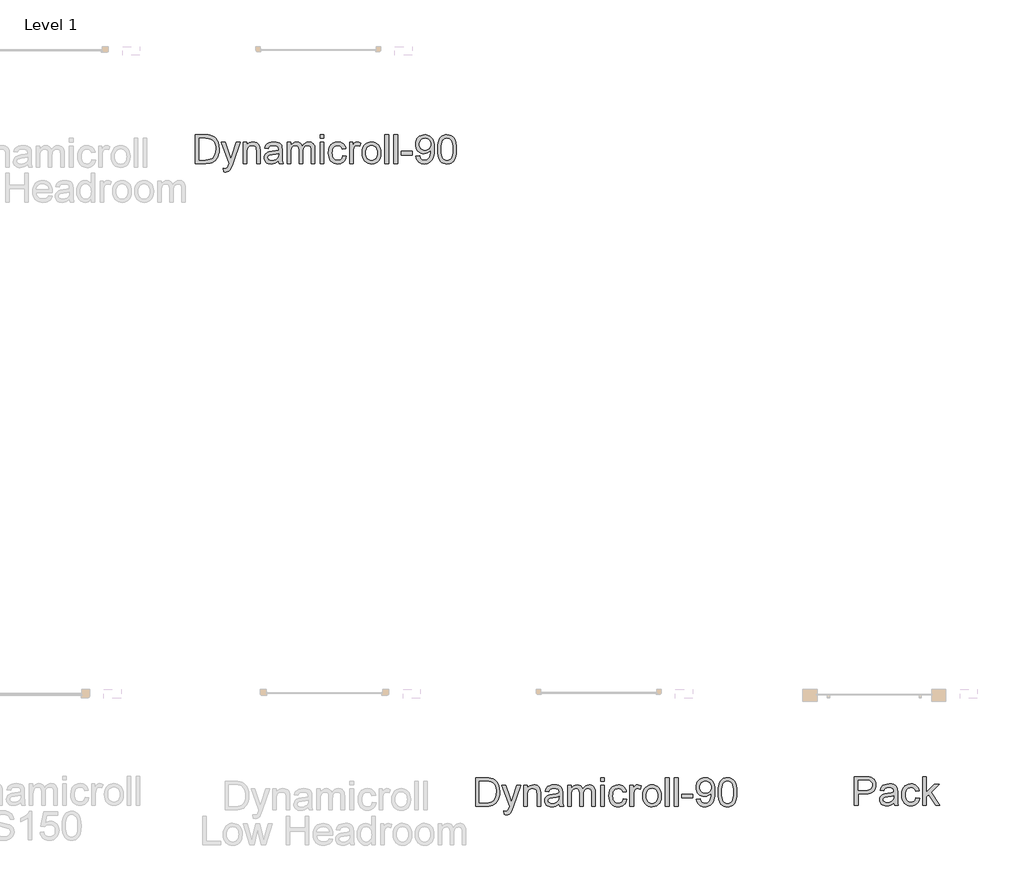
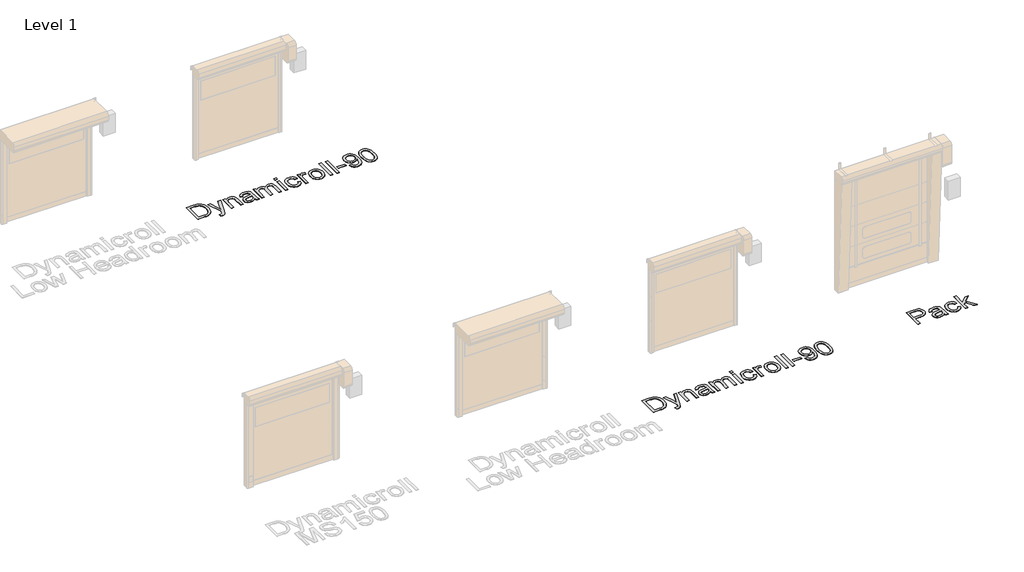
# One storey, part 11 of 18: 3 proxies.
"""IFC4 building model written with IfcOpenShell, lengths in millimetres."""

import ifcopenshell
import ifcopenshell.guid

model = None  # the IFC model being written
_history = None  # IfcOwnerHistory: only IFC2X3 demands one
_inside = {}  # id of a spatial element -> (the spatial element, [elements in it])
_under = {}  # id of a project, library or spatial element -> (it, [spatial elements below it])
_declared = {}  # id of a project -> (the project, [libraries it declares])
_typed = {}  # id of a type object -> (the type object, [elements of that type])
_made_of = {}  # id of a material, layer set ... -> (it, [elements and type objects made of it])


def new_model(schema):
    """Start an empty IFC model of exactly this schema.

    Asked for "IFC4X3", IfcOpenShell would pick the latest addendum, in which some entities
    have other attributes; the version numbers below select the first issue.
    IFC2X3 requires an IfcOwnerHistory on every rooted entity: one is made here for all.
    """
    global model, _history
    if schema == "IFC4X3":
        model = ifcopenshell.file(schema_version=(4, 3, 0, 0))
    else:
        model = ifcopenshell.file(schema=schema)
    _inside.clear()
    _under.clear()
    _declared.clear()
    _typed.clear()
    _made_of.clear()
    _history = None
    if model.schema == "IFC2X3":
        org = make("IfcOrganization", Name="unknown")
        user = make(
            "IfcPersonAndOrganization",
            ThePerson=make("IfcPerson", FamilyName="unknown"),
            TheOrganization=org,
        )
        app = make(
            "IfcApplication",
            ApplicationDeveloper=org,
            Version="unknown",
            ApplicationFullName="unknown",
            ApplicationIdentifier="unknown",
        )
        _history = make(
            "IfcOwnerHistory",
            OwningUser=user,
            OwningApplication=app,
            ChangeAction="ADDED",
            CreationDate=0,
        )
    return model


def make(cls, **values):
    """One entity of the class cls with the attributes given. An attribute that is None is left unset."""
    return model.create_entity(
        cls, **{name: value for name, value in values.items() if value is not None}
    )


def rooted(cls, **values):
    """An entity with a GlobalId (a new one), such as an element, a storey or a relation."""
    return make(cls, GlobalId=ifcopenshell.guid.new(), OwnerHistory=_history, **values)


def si_unit(unit_type, name, prefix=None):
    """IfcSIUnit, for example si_unit("LENGTHUNIT", "METRE", prefix="MILLI")."""
    return make("IfcSIUnit", UnitType=unit_type, Prefix=prefix, Name=name)


def assignment(units):
    """IfcUnitAssignment: the units of a project."""
    return None if units is None else make("IfcUnitAssignment", Units=units)


def point(xyz):
    """IfcCartesianPoint."""
    return None if xyz is None else make("IfcCartesianPoint", Coordinates=xyz)


def direction(xyz):
    """IfcDirection."""
    return None if xyz is None else make("IfcDirection", DirectionRatios=xyz)


def frame(location, z_axis=None, x_axis=None):
    """IfcAxis2Placement3D, a coordinate frame: its origin and axes. An axis left out is left unset."""
    return make(
        "IfcAxis2Placement3D",
        Location=point(location),
        Axis=direction(z_axis),
        RefDirection=direction(x_axis),
    )


def origin():
    """The frame at (0, 0, 0) with its axes left unset."""
    return frame((0.0, 0.0, 0.0))


def origin_with_axes():
    """The frame at (0, 0, 0) with the z axis (0, 0, 1) and the x axis (1, 0, 0) written out."""
    return frame((0.0, 0.0, 0.0), z_axis=(0.0, 0.0, 1.0), x_axis=(1.0, 0.0, 0.0))


def place(relative_to, where):
    """IfcLocalPlacement: puts the frame where relative to a parent placement (None: the world)."""
    return make(
        "IfcLocalPlacement", PlacementRelTo=relative_to, RelativePlacement=where
    )


def context(
    kind, dimensions, precision=None, world=None, true_north=None, identifier=None
):
    """IfcGeometricRepresentationContext, for example the 3D "Model" context."""
    return make(
        "IfcGeometricRepresentationContext",
        ContextIdentifier=identifier,
        ContextType=kind,
        CoordinateSpaceDimension=dimensions,
        Precision=precision,
        WorldCoordinateSystem=world,
        TrueNorth=true_north,
    )


def project(units=None, contexts=None):
    """IfcProject with its units and contexts."""
    return rooted(
        "IfcProject",
        Name="project",
        RepresentationContexts=contexts,
        UnitsInContext=assignment(units),
    )


def spatial(cls, under=None, at=None, **own):
    """A site, building, storey or space (cls), placed at a placement, below another one or the project."""
    s = rooted(cls, ObjectPlacement=at, **own)
    if under is not None:
        _under.setdefault(under.id(), (under, []))[1].append(s)
    return s


def polyline(points):
    """IfcPolyline through the points."""
    return make("IfcPolyline", Points=[point(p) for p in points])


def outline(outer, holes=None, kind="AREA"):
    """IfcArbitraryClosedProfileDef: a profile drawn as a closed curve; with holes, ...WithVoids."""
    if holes is None:
        return make("IfcArbitraryClosedProfileDef", ProfileType=kind, OuterCurve=outer)
    return make(
        "IfcArbitraryProfileDefWithVoids",
        ProfileType=kind,
        OuterCurve=outer,
        InnerCurves=holes,
    )


def extrude(swept, where, along, depth):
    """IfcExtrudedAreaSolid: the profile swept, set in the frame where, extruded along a direction by depth."""
    return make(
        "IfcExtrudedAreaSolid",
        SweptArea=swept,
        Position=where,
        ExtrudedDirection=direction(along),
        Depth=depth,
    )


def shape(context_of_items, identifier, shape_type, items):
    """IfcShapeRepresentation: the items that make up one representation, for example the "Body"."""
    return make(
        "IfcShapeRepresentation",
        ContextOfItems=context_of_items,
        RepresentationIdentifier=identifier,
        RepresentationType=shape_type,
        Items=items,
    )


def made_of(thing, what):
    """Note that an element or type object is made of a material, layer set ...; save() writes the relation."""
    if what is not None:
        _made_of.setdefault(what.id(), (what, []))[1].append(thing)
    return thing


def element(
    cls,
    number,
    at=None,
    inside=None,
    cuts=None,
    type_object=None,
    material=None,
    context=None,
    identifier="Body",
    shape_type=None,
    held_by="IfcProductDefinitionShape",
    body=None,
    shapes=None,
    **own,
):
    """One element of the class cls, such as IfcWall. Its Tag is "e" and its number.

    at: its placement. inside: the storey or other place that contains it. cuts: it is an
    opening in that element (IfcRelVoidsElement). A single representation is given by context,
    identifier, shape_type and body (its items); several are given by shapes. held_by: the class
    of the entity that holds the representations. save() writes the other relations.
    """
    e = rooted(cls, Tag="e%d" % number, ObjectPlacement=at, **own)
    if body is not None:
        shapes = [shape(context, identifier, shape_type, body)]
    if shapes is not None:
        e.Representation = make(held_by, Representations=shapes)
    if inside is not None:
        _inside.setdefault(inside.id(), (inside, []))[1].append(e)
    if cuts is not None:
        rooted(
            "IfcRelVoidsElement", RelatingBuildingElement=cuts, RelatedOpeningElement=e
        )
    if type_object is not None:
        _typed.setdefault(type_object.id(), (type_object, []))[1].append(e)
    return made_of(e, material)


def aggregate(whole, parts):
    """IfcRelAggregates: a whole, such as a stair, and the parts it consists of."""
    return rooted("IfcRelAggregates", RelatingObject=whole, RelatedObjects=parts)


def save(model, path):
    """Write the relations noted so far, then the file.

    IfcRelAggregates (storeys below a building ...), IfcRelContainedInSpatialStructure (elements
    in a storey), IfcRelDefinesByType, IfcRelAssociatesMaterial and IfcRelDeclares: one each for
    every whole, place, type object, material and project.
    """
    for whole, parts in _under.values():
        aggregate(whole, parts)
    for where, things in _inside.values():
        rooted(
            "IfcRelContainedInSpatialStructure",
            RelatedElements=things,
            RelatingStructure=where,
        )
    for kind, things in _typed.values():
        rooted("IfcRelDefinesByType", RelatedObjects=things, RelatingType=kind)
    for what, things in _made_of.values():
        rooted("IfcRelAssociatesMaterial", RelatedObjects=things, RelatingMaterial=what)
    for by, libraries in _declared.values():
        rooted("IfcRelDeclares", RelatingContext=by, RelatedDefinitions=libraries)
    model.write(path)


model = new_model("IFC4")

# Units and contexts
model_context = context("Model", 3, world=origin())
ifc_project = project(units=[si_unit("LENGTHUNIT", "METRE", prefix="MILLI")], contexts=[model_context])

# Site, building, storey
site = spatial("IfcSite", under=ifc_project)
building = spatial("IfcBuilding", under=site)
storey = spatial("IfcBuildingStorey", under=building, Name="Level 1", Elevation=0.0)

# Proxies
placement = place(None, origin())
element("IfcBuildingElementProxy", 1, Name="500mm", ObjectType="500mm", at=placement, inside=storey, context=model_context, shape_type="SweptSolid", body=[
    extrude(outline(polyline([(14635.3862268, 30417.6094957), (14635.3862268, 30919.8910465), (14808.6586466, 30919.8910465), (14860.4380374, 30918.0822933), (14898.299226, 30912.6560339), (14938.3370499, 30898.7071749), (14972.1208797, 30876.7262257), (14990.7372415, 30858.7613216), (15006.8550715, 30838.4664982), (15020.4743695, 30815.8417555), (15031.5951356, 30790.8870935), (15046.4023859, 30734.9077166), (15051.338136, 30671.4480724), (15047.9965413, 30617.5380317), (15037.9717569, 30570.0965827), (15022.7046541, 30529.7062053), (15003.636104, 30496.9493794), (14981.6858116, 30471.0903408), (14957.7734819, 30451.3933256), (14930.320288, 30436.7853447), (14897.7474031, 30426.193409), (14859.9935133, 30419.755474), (14816.9973051, 30417.6094957), (14635.3862268, 30417.6094957)]), holes=[polyline([(14698.1714207, 30480.3946896), (14809.2717832, 30480.3946896), (14855.2263758, 30482.6632952), (14890.0831948, 30489.4691121), (14916.3867575, 30500.4136015), (14936.6815809, 30515.0982245), (14958.4939175, 30542.2755068), (14974.8799947, 30577.4542226), (14985.1347053, 30620.787656), (14988.5529422, 30672.4290911), (14986.8783127, 30708.8800654), (14981.8544242, 30740.8551422), (14973.4812767, 30768.3543213), (14961.7588702, 30791.3776028), (14947.6375665, 30810.4461529), (14932.0677275, 30826.0811377), (14915.0493531, 30838.2825572), (14896.5824434, 30847.0504114), (14860.4686942, 30854.5919923), (14807.5550006, 30857.1058526), (14698.1714207, 30857.1058526), (14698.1714207, 30480.3946896)])]), origin_with_axes(), (0.0, 0.0, 1.0), 5.0),
    extrude(outline(polyline([(15129.8196283, 30276.3428096), (15121.9714791, 30336.7980841), (15153.8545854, 30331.2798542), (15170.623873, 30333.0119653), (15183.653027, 30338.2082984), (15193.8004387, 30346.5009717), (15201.9244994, 30357.5221032), (15219.0923258, 30403.7526072), (15223.9974191, 30418.9583964), (15090.5788822, 30786.4725096), (15156.7976413, 30786.4725096), (15227.5536117, 30581.6848656), (15252.2017054, 30499.769808), (15276.8497991, 30572.1199337), (15349.5678068, 30786.4725096), (15415.2960566, 30786.4725096), (15286.9052403, 30408.7803278), (15253.5506061, 30326.8652703), (15236.4747501, 30300.7149918), (15217.1302885, 30282.5968035), (15194.65883, 30272.0201961), (15168.2019832, 30268.4946604), (15150.0224812, 30270.4566977), (15129.8196283, 30276.3428096)])), origin_with_axes(), (0.0, 0.0, 1.0), 5.0),
    extrude(outline(polyline([(15467.2900453, 30417.6094957), (15467.2900453, 30786.4725096), (15530.0752391, 30786.4725096), (15530.0752391, 30734.9690302), (15551.8875757, 30760.9353677), (15578.0838395, 30779.4827517), (15608.6640303, 30790.611182), (15643.6281483, 30794.3206588), (15674.5762211, 30791.3316176), (15702.9184632, 30782.3644939), (15726.5548814, 30768.5382623), (15743.3854826, 30750.971897), (15754.8051529, 30729.7113834), (15762.2087781, 30704.8027066), (15765.519716, 30644.1021774), (15765.519716, 30417.6094957), (15702.7345222, 30417.6094957), (15702.7345222, 30635.6408915), (15700.925769, 30668.1064776), (15695.4995096, 30691.1910728), (15685.4900536, 30707.7304342), (15669.9317109, 30720.5603188), (15649.9894411, 30728.7916784), (15626.8282038, 30731.5354649), (15607.7634859, 30729.9949591), (15590.0553327, 30725.3734415), (15573.7037445, 30717.6709123), (15558.7087211, 30706.8873713), (15546.1815727, 30691.7965453), (15537.2336096, 30671.1721609), (15531.8648317, 30645.0142182), (15530.0752391, 30613.3227172), (15530.0752391, 30417.6094957), (15467.2900453, 30417.6094957)])), origin_with_axes(), (0.0, 0.0, 1.0), 5.0),
    extrude(outline(polyline([(16087.2938345, 30464.6983911), (16057.2961234, 30438.9773083), (16026.4093643, 30422.146707), (15993.9284498, 30412.8576866), (15959.1482728, 30409.7613465), (15931.1930733, 30411.6237491), (15906.6791032, 30417.2109569), (15885.6063627, 30426.5229699), (15867.9748517, 30439.5597881), (15854.0528174, 30455.493677), (15844.1085072, 30473.4969022), (15838.1419211, 30493.5694635), (15836.1530591, 30515.7113611), (15839.1574287, 30541.7390123), (15848.1705376, 30565.3754305), (15862.0734113, 30585.6089402), (15879.7470755, 30601.427866), (15900.5170798, 30613.3840308), (15923.7089739, 30622.0292577), (15978.0328819, 30631.4715623), (16042.2282901, 30641.4043761), (16086.9259525, 30653.0539726), (16087.2938345, 30667.0334885), (16082.971221, 30695.0538338), (16070.0033807, 30713.3866199), (16056.9282414, 30721.3267396), (16041.0020167, 30726.9982537), (16000.5963109, 30731.5354649), (15963.1949748, 30728.5157669), (15937.0753531, 30719.4566728), (15919.2637332, 30702.7027136), (15906.7864022, 30676.5984203), (15844.0012083, 30684.4465696), (15854.8997124, 30718.7822224), (15871.1631623, 30745.7602354), (15894.3090712, 30766.392284), (15925.8549522, 30781.6900436), (15964.4365765, 30791.163005), (16008.6897148, 30794.3206588), (16051.1341, 30791.530887), (16084.7799742, 30783.1615716), (16110.1485034, 30770.5769417), (16127.7608539, 30755.1412263), (16139.4411073, 30736.0573478), (16147.013345, 30712.5282285), (16150.0790283, 30657.5911839), (16150.0790283, 30579.4775736), (16153.2673389, 30470.400562), (16157.9884912, 30443.4378775), (16165.7753268, 30417.6094957), (16102.9901329, 30417.6094957), (16092.9346917, 30439.4371608), (16087.2938345, 30464.6983911)]), holes=[polyline([(16087.2938345, 30590.2687788), (16045.1100323, 30579.8147988), (15986.0036585, 30571.0162877), (15931.9863188, 30560.8382192), (15917.9301609, 30553.8791181), (15907.5221662, 30544.2835294), (15901.0842312, 30532.7872171), (15898.9382529, 30520.1259451), (15903.61342, 30501.4559338), (15917.638921, 30486.1581742), (15940.7081878, 30475.9494488), (15972.514652, 30472.5465403), (16006.2371682, 30476.3020024), (16036.0356098, 30487.5683885), (16060.1931941, 30504.1690635), (16076.9931386, 30523.9273923), (16084.442749, 30544.2835294), (16086.9259525, 30572.4878157), (16087.2938345, 30590.2687788)])]), origin_with_axes(), (0.0, 0.0, 1.0), 5.0),
    extrude(outline(polyline([(16236.4086698, 30417.6094957), (16236.4086698, 30786.4725096), (16299.1938637, 30786.4725096), (16299.1938637, 30725.7719804), (16318.0784728, 30753.6543699), (16342.3586844, 30775.4973634), (16371.2067642, 30789.6148349), (16403.7949776, 30794.3206588), (16438.7131104, 30789.5228644), (16466.7027988, 30775.1294814), (16487.6107589, 30752.0908714), (16501.2837064, 30721.3573964), (16524.1690321, 30753.2788237), (16550.2733254, 30776.0798432), (16579.5965861, 30789.7604549), (16612.1388142, 30794.3206588), (16637.2735851, 30792.4237673), (16659.3350085, 30786.7330926), (16678.3230844, 30777.248635), (16694.2378128, 30763.9703942), (16706.8186107, 30746.7450862), (16715.8048948, 30725.4194268), (16721.1966653, 30699.993416), (16722.9939221, 30670.4670537), (16722.9939221, 30417.6094957), (16660.2087283, 30417.6094957), (16660.2087283, 30643.4890408), (16658.7525287, 30674.8049956), (16654.38393, 30695.9122251), (16646.1985556, 30710.3669218), (16633.292029, 30721.7252784), (16616.6913539, 30729.0829183), (16597.4235344, 30731.5354649), (16579.631075, 30729.9643023), (16563.4097783, 30725.2508142), (16548.7596443, 30717.3950008), (16535.6806729, 30706.3968619), (16524.9239567, 30691.934501), (16517.2405879, 30673.6860212), (16512.6305667, 30651.6514225), (16511.0938929, 30625.830705), (16511.0938929, 30417.6094957), (16448.3086991, 30417.6094957), (16448.3086991, 30650.4787987), (16444.6758644, 30685.9794112), (16433.7773603, 30711.3019552), (16425.3505633, 30720.1541157), (16414.6015113, 30726.4770875), (16386.1366419, 30731.5354649), (16361.9484007, 30728.1632133), (16339.6608832, 30718.0464585), (16321.2667834, 30701.430455), (16308.7587956, 30678.5604576), (16301.5850967, 30646.8306356), (16299.1938637, 30603.635158), (16299.1938637, 30417.6094957), (16236.4086698, 30417.6094957)])), origin_with_axes(), (0.0, 0.0, 1.0), 5.0),
    extrude(outline(polyline([(16817.1717129, 30857.1058526), (16817.1717129, 30919.8910465), (16879.9569067, 30919.8910465), (16879.9569067, 30857.1058526), (16817.1717129, 30857.1058526)])), origin_with_axes(), (0.0, 0.0, 1.0), 5.0),
    extrude(outline(polyline([(16817.1717129, 30417.6094957), (16817.1717129, 30786.4725096), (16879.9569067, 30786.4725096), (16879.9569067, 30417.6094957), (16817.1717129, 30417.6094957)])), origin_with_axes(), (0.0, 0.0, 1.0), 5.0),
    extrude(outline(polyline([(17209.5791744, 30551.0280326), (17272.3643683, 30543.1798834), (17265.5355587, 30513.5538865), (17254.8593167, 30487.3384622), (17240.3356421, 30464.5336106), (17221.9645349, 30445.1393317), (17200.5200803, 30429.6614632), (17176.7763632, 30418.6058428), (17150.7333836, 30411.9724706), (17122.3911416, 30409.7613465), (17087.1779368, 30412.8461903), (17055.605231, 30422.1007218), (17027.6730241, 30437.5249408), (17003.3813161, 30459.1188475), (16983.7187899, 30486.4762388), (16969.6741283, 30519.1909116), (16961.2473314, 30557.262866), (16958.438399, 30600.692102), (16963.2361934, 30656.56418), (16977.6295765, 30704.9866476), (16988.4820953, 30725.9367608), (17001.8484745, 30744.089438), (17017.7287139, 30759.4446792), (17036.1228137, 30772.0024844), (17077.1263277, 30788.7411152), (17121.5327502, 30794.3206588), (17149.3883151, 30792.4046067), (17174.5843996, 30786.6564506), (17197.1210039, 30777.0761903), (17216.998128, 30763.6638259), (17233.8785466, 30746.7259257), (17247.4250347, 30726.569058), (17257.6375921, 30703.1932229), (17264.516219, 30676.5984203), (17201.7310252, 30668.7502711), (17190.3420117, 30696.1421513), (17172.6070339, 30715.7778528), (17149.5071103, 30727.5960619), (17122.0232596, 30731.5354649), (17100.6899359, 30729.5964203), (17081.4489412, 30723.7792862), (17064.3002753, 30714.0840628), (17049.2439382, 30700.51075), (17036.9850371, 30682.7451153), (17028.2286792, 30660.4729262), (17022.9748645, 30633.6941826), (17021.2235929, 30602.4088846), (17022.9365434, 30570.6522378), (17028.075395, 30543.5630938), (17036.6401477, 30521.1414526), (17048.6308015, 30503.3873143), (17063.3882345, 30489.8944757), (17080.2533247, 30480.2567338), (17099.2260722, 30474.4740887), (17120.3064769, 30472.5465403), (17152.8180482, 30477.3596631), (17179.4741645, 30491.7990314), (17190.2538734, 30502.7205282), (17198.8646113, 30516.2325273), (17209.5791744, 30551.0280326)])), origin_with_axes(), (0.0, 0.0, 1.0), 5.0),
    extrude(outline(polyline([(17327.3014129, 30417.6094957), (17327.3014129, 30786.4725096), (17382.2384575, 30786.4725096), (17382.2384575, 30731.9033469), (17402.5332809, 30763.5411985), (17421.233949, 30782.180553), (17439.9959307, 30791.2856323), (17460.4746951, 30794.3206588), (17491.7446647, 30789.4768792), (17523.5051436, 30774.9455404), (17502.5358699, 30718.6595951), (17480.4629502, 30728.3164975), (17458.3900305, 30731.5354649), (17439.6433771, 30728.4391248), (17422.8894179, 30719.1501044), (17409.3544262, 30704.373511), (17400.2646752, 30684.8144516), (17392.6311238, 30649.7430347), (17390.0866067, 30611.4833072), (17390.0866067, 30417.6094957), (17327.3014129, 30417.6094957)])), origin_with_axes(), (0.0, 0.0, 1.0), 5.0),
    extrude(outline(polyline([(17547.0495913, 30602.0410026), (17550.4448356, 30649.8120126), (17560.6305683, 30690.976475), (17577.6067895, 30725.5343899), (17601.3734993, 30753.4857573), (17625.3011574, 30771.3510267), (17651.7120189, 30784.1119334), (17680.606084, 30791.7684775), (17711.9833525, 30794.3206588), (17746.6217416, 30791.2128224), (17777.9415285, 30781.889313), (17805.9427133, 30766.3501308), (17830.6252959, 30744.5952758), (17850.7706673, 30717.3605118), (17865.1602182, 30685.381603), (17873.7939488, 30648.6585492), (17876.671859, 30607.1913506), (17871.5828247, 30543.7623632), (17865.2215319, 30517.7270479), (17856.3157219, 30495.4778514), (17844.9765259, 30476.2598492), (17831.3150747, 30459.3181169), (17815.3313684, 30444.6526545), (17797.025407, 30432.2634619), (17756.2978045, 30415.3868753), (17711.9833525, 30409.7613465), (17676.8391256, 30412.8576866), (17645.2280988, 30422.146707), (17617.1502719, 30437.6284076), (17592.6056451, 30459.3027885), (17572.6748715, 30486.8019677), (17558.4386048, 30519.7580631), (17549.8968447, 30558.1710747), (17547.0495913, 30602.0410026)]), holes=[polyline([(17609.8347852, 30602.16363), (17611.6512025, 30571.7098986), (17617.1004546, 30545.3411901), (17626.1825413, 30523.0575047), (17638.8974628, 30504.8588423), (17654.363835, 30490.7222102), (17671.700274, 30480.6246158), (17690.9067799, 30474.5660592), (17711.9833525, 30472.5465403), (17732.9526262, 30474.5775555), (17752.08249, 30480.6706011), (17769.3729437, 30490.825677), (17784.8239875, 30505.0427833), (17797.538909, 30523.4215546), (17806.6209958, 30546.0616257), (17812.0702478, 30572.9629966), (17813.8866652, 30604.1256673), (17812.0587515, 30633.6137085), (17806.5750105, 30659.2926381), (17797.4354422, 30681.1624563), (17784.6400465, 30699.223163), (17769.1315212, 30713.3597951), (17751.8525637, 30723.4573895), (17732.8031742, 30729.5159461), (17711.9833525, 30731.5354649), (17690.9067799, 30729.5236103), (17671.700274, 30723.4880463), (17654.363835, 30713.428773), (17638.8974628, 30699.3457904), (17626.1825413, 30681.2007774), (17617.1004546, 30658.955413), (17611.6512025, 30632.6096972), (17609.8347852, 30602.16363)])]), origin_with_axes(), (0.0, 0.0, 1.0), 5.0),
    extrude(outline(polyline([(17947.3052021, 30417.6094957), (17947.3052021, 30919.8910465), (18010.0903959, 30919.8910465), (18010.0903959, 30417.6094957), (17947.3052021, 30417.6094957)])), origin_with_axes(), (0.0, 0.0, 1.0), 5.0),
    extrude(outline(polyline([(18104.2681867, 30417.6094957), (18104.2681867, 30919.8910465), (18167.0533805, 30919.8910465), (18167.0533805, 30417.6094957), (18104.2681867, 30417.6094957)])), origin_with_axes(), (0.0, 0.0, 1.0), 5.0),
    extrude(outline(polyline([(18229.8385744, 30566.7243311), (18229.8385744, 30629.509525), (18426.0423051, 30629.509525), (18426.0423051, 30566.7243311), (18229.8385744, 30566.7243311)])), origin_with_axes(), (0.0, 0.0, 1.0), 5.0),
    extrude(outline(polyline([(18488.827499, 30543.1798834), (18551.6126928, 30551.0280326), (18562.3425843, 30515.3894644), (18579.8169791, 30491.1245811), (18603.6066815, 30477.1910505), (18633.2824957, 30472.5465403), (18659.9079551, 30475.5355816), (18684.1115247, 30484.5027052), (18704.2224072, 30498.4668926), (18718.569805, 30516.4471251), (18729.4376522, 30540.0835433), (18739.109883, 30571.0162877), (18745.9156999, 30606.5169003), (18748.1843056, 30643.8569228), (18747.8164236, 30656.1196559), (18726.0654006, 30629.5708386), (18697.6005312, 30608.5402512), (18664.4758233, 30594.8366469), (18628.7452845, 30590.2687788), (18598.9200181, 30593.0585506), (18571.493649, 30601.427866), (18546.466177, 30615.376725), (18523.8376022, 30634.9051275), (18505.0871167, 30658.993734), (18491.6939129, 30686.6232047), (18483.6579905, 30717.7935396), (18480.9793497, 30752.5047387), (18483.7882821, 30788.3732332), (18492.215079, 30820.5629078), (18506.2597406, 30849.0737624), (18525.9222668, 30873.9057971), (18549.815436, 30894.0243437), (18576.5520264, 30908.3947341), (18606.1320381, 30917.0169684), (18638.555471, 30919.8910465), (18662.4946254, 30918.2509059), (18685.3837833, 30913.3304842), (18707.2229447, 30905.1297814), (18728.0121095, 30893.6487975), (18747.057667, 30879.1327871), (18763.6660062, 30861.8270049), (18777.8371272, 30841.7314509), (18789.57103, 30818.8461251), (18798.771912, 30791.8527837), (18805.3439706, 30759.4331829), (18810.6016174, 30678.315203), (18805.359299, 30592.3074582), (18798.806401, 30556.6267368), (18789.6323437, 30525.828116), (18777.8716162, 30499.1605034), (18763.5587073, 30475.8728067), (18746.6936171, 30455.9650258), (18727.2763455, 30439.4371608), (18705.6977672, 30426.453992), (18682.3487569, 30417.1803001), (18657.2293144, 30411.6160849), (18630.3394398, 30409.7613465), (18602.1428177, 30411.949478), (18576.6593253, 30418.5138723), (18553.8889627, 30429.4545296), (18533.8317297, 30444.7714497), (18516.9934642, 30464.0507655), (18503.8800039, 30486.8786097), (18494.4913489, 30513.2549824), (18488.827499, 30543.1798834)]), holes=[polyline([(18747.8164236, 30753.9762667), (18746.1226336, 30776.478382), (18741.0412635, 30796.5279508), (18732.5723134, 30814.1249729), (18720.7157833, 30829.2694483), (18706.0541529, 30841.4478752), (18689.1699022, 30850.1467516), (18670.0630311, 30855.3660774), (18648.7335395, 30857.1058526), (18626.7219335, 30855.2319537), (18606.7949921, 30849.610257), (18588.9527153, 30840.2407624), (18573.1951032, 30827.12347), (18560.3192334, 30811.0248006), (18551.1221835, 30792.7111751), (18545.6039536, 30772.1825933), (18543.7645436, 30749.4390554), (18545.5043189, 30729.0407652), (18550.7236447, 30710.6428333), (18559.422521, 30694.2452598), (18571.6009479, 30679.8480446), (18586.7530876, 30668.1256381), (18604.3731023, 30659.7524906), (18624.4609921, 30654.7286021), (18647.0167569, 30653.0539726), (18668.0511764, 30654.7286021), (18687.1312228, 30659.7524906), (18704.2568961, 30668.1256381), (18719.4281963, 30679.8480446), (18731.8480457, 30694.5288355), (18740.7193668, 30711.7771361), (18746.0421594, 30731.5929465), (18747.8164236, 30753.9762667)])]), origin_with_axes(), (0.0, 0.0, 1.0), 5.0),
    extrude(outline(polyline([(18865.538662, 30664.7035692), (18870.1525154, 30745.1011135), (18883.9940755, 30809.2198796), (18894.3407566, 30835.4199754), (18906.9253865, 30858.040886), (18921.7479652, 30877.0826114), (18938.8084927, 30892.5451515), (18958.1644506, 30904.5089806), (18979.8733205, 30913.0545727), (19003.9351022, 30918.181928), (19030.3497959, 30919.8910465), (19069.038719, 30915.8443445), (19103.6809402, 30903.7042387), (19132.6516474, 30883.9459099), (19154.3260282, 30857.044539), (19170.696777, 30823.2300522), (19183.7565879, 30782.7323759), (19192.3098443, 30731.3055387), (19195.1609297, 30664.7035692), (19190.5930616, 30584.7658773), (19176.8894573, 30520.8003954), (19166.6232504, 30494.5888032), (19154.096102, 30471.9334037), (19139.3080122, 30452.8341968), (19122.258981, 30437.2911825), (19102.8800305, 30425.2468792), (19081.1021828, 30416.6438055), (19056.9254379, 30411.4819612), (19030.3497959, 30409.7613465), (18995.7688883, 30412.7503877), (18965.1120554, 30421.7175113), (18938.3792971, 30436.6627174), (18915.5706134, 30457.5860059), (18893.6816347, 30495.4088735), (18878.0466499, 30542.5360899), (18868.665659, 30598.9676551), (18865.538662, 30664.7035692)]), holes=[polyline([(18928.3238559, 30664.8261965), (18930.1632659, 30610.2455376), (18935.6814958, 30566.0652092), (18944.8785457, 30532.2852114), (18957.7544155, 30508.9055442), (18973.3280866, 30492.99848), (18990.6185404, 30481.6362913), (19009.6257768, 30474.8189781), (19030.3497959, 30472.5465403), (19051.0738149, 30474.8266423), (19070.0810514, 30481.6669481), (19087.3715051, 30493.0674579), (19102.9451763, 30509.0281715), (19115.8210461, 30532.4461598), (19125.018096, 30566.2184934), (19130.5363259, 30610.3451723), (19132.3757359, 30664.8261965), (19130.5976396, 30717.9621522), (19125.2633506, 30761.3645634), (19116.3728691, 30795.0334302), (19103.9261949, 30818.9687525), (19088.6131069, 30835.6537338), (19071.1233837, 30847.5715776), (19051.4570253, 30854.7222839), (19029.6140319, 30857.1058526), (19008.9973117, 30855.0058596), (18990.3119721, 30848.7058804), (18973.5580129, 30838.2059151), (18958.7354341, 30823.5059637), (18945.4303687, 30797.4476558), (18935.9267504, 30762.3149252), (18930.2245795, 30718.1077721), (18928.3238559, 30664.8261965)])]), origin_with_axes(), (0.0, 0.0, 1.0), 5.0),
])
element("IfcBuildingElementProxy", 2, Name="500mm", ObjectType="500mm", at=placement, inside=storey, context=model_context, shape_type="SweptSolid", body=[
    extrude(outline(polyline([(19535.3862268, 19179.9547363), (19535.3862268, 19682.236287), (19708.6586466, 19682.236287), (19760.4380374, 19680.4275339), (19798.299226, 19675.0012744), (19838.3370499, 19661.0524154), (19872.1208797, 19639.0714662), (19890.7372415, 19621.1065621), (19906.8550715, 19600.8117387), (19920.4743695, 19578.186996), (19931.5951356, 19553.232334), (19946.4023859, 19497.2529571), (19951.338136, 19433.7933129), (19947.9965413, 19379.8832722), (19937.9717569, 19332.4418233), (19922.7046541, 19292.0514459), (19903.636104, 19259.2946199), (19881.6858116, 19233.4355813), (19857.7734819, 19213.7385661), (19830.320288, 19199.1305853), (19797.7474031, 19188.5386495), (19759.9935133, 19182.1007146), (19716.9973051, 19179.9547363), (19535.3862268, 19179.9547363)]), holes=[polyline([(19598.1714207, 19242.7399301), (19709.2717832, 19242.7399301), (19755.2263758, 19245.0085357), (19790.0831948, 19251.8143526), (19816.3867575, 19262.758842), (19836.6815809, 19277.443465), (19858.4939175, 19304.6207474), (19874.8799947, 19339.7994632), (19885.1347053, 19383.1328965), (19888.5529422, 19434.7743316), (19886.8783127, 19471.2253059), (19881.8544242, 19503.2003827), (19873.4812767, 19530.6995618), (19861.7588702, 19553.7228434), (19847.6375665, 19572.7913934), (19832.0677275, 19588.4263782), (19815.0493531, 19600.6277977), (19796.5824434, 19609.395652), (19760.4686942, 19616.9372329), (19707.5550006, 19619.4510932), (19598.1714207, 19619.4510932), (19598.1714207, 19242.7399301)])]), origin_with_axes(), (0.0, 0.0, 1.0), 5.0),
    extrude(outline(polyline([(20029.8196283, 19038.6880501), (20021.9714791, 19099.1433246), (20053.8545854, 19093.6250947), (20070.623873, 19095.3572058), (20083.653027, 19100.553539), (20093.8004387, 19108.8462123), (20101.9244994, 19119.8673437), (20119.0923258, 19166.0978478), (20123.9974191, 19181.3036369), (19990.5788822, 19548.8177501), (20056.7976413, 19548.8177501), (20127.5536117, 19344.0301061), (20152.2017054, 19262.1150485), (20176.8497991, 19334.4651742), (20249.5678068, 19548.8177501), (20315.2960566, 19548.8177501), (20186.9052403, 19171.1255684), (20153.5506061, 19089.2105108), (20136.4747501, 19063.0602323), (20117.1302885, 19044.942044), (20094.65883, 19034.3654367), (20068.2019832, 19030.8399009), (20050.0224812, 19032.8019382), (20029.8196283, 19038.6880501)])), origin_with_axes(), (0.0, 0.0, 1.0), 5.0),
    extrude(outline(polyline([(20367.2900453, 19179.9547363), (20367.2900453, 19548.8177501), (20430.0752391, 19548.8177501), (20430.0752391, 19497.3142708), (20451.8875757, 19523.2806083), (20478.0838395, 19541.8279922), (20508.6640303, 19552.9564225), (20543.6281483, 19556.6658993), (20574.5762211, 19553.6768581), (20602.9184632, 19544.7097345), (20626.5548814, 19530.8835028), (20643.3854826, 19513.3171375), (20654.8051529, 19492.0566239), (20662.2087781, 19467.1479472), (20665.519716, 19406.447418), (20665.519716, 19179.9547363), (20602.7345222, 19179.9547363), (20602.7345222, 19397.9861321), (20600.925769, 19430.4517181), (20595.4995096, 19453.5363133), (20585.4900536, 19470.0756747), (20569.9317109, 19482.9055593), (20549.9894411, 19491.1369189), (20526.8282038, 19493.8807055), (20507.7634859, 19492.3401996), (20490.0553327, 19487.7186821), (20473.7037445, 19480.0161528), (20458.7087211, 19469.2326118), (20446.1815727, 19454.1417858), (20437.2336096, 19433.5174014), (20431.8648317, 19407.3594587), (20430.0752391, 19375.6679577), (20430.0752391, 19179.9547363), (20367.2900453, 19179.9547363)])), origin_with_axes(), (0.0, 0.0, 1.0), 5.0),
    extrude(outline(polyline([(20987.2938345, 19227.0436316), (20957.2961234, 19201.3225488), (20926.4093643, 19184.4919475), (20893.9284498, 19175.2029271), (20859.1482728, 19172.106587), (20831.1930733, 19173.9689896), (20806.6791032, 19179.5561974), (20785.6063627, 19188.8682104), (20767.9748517, 19201.9050286), (20754.0528174, 19217.8389175), (20744.1085072, 19235.8421427), (20738.1419211, 19255.914704), (20736.1530591, 19278.0566016), (20739.1574287, 19304.0842528), (20748.1705376, 19327.720671), (20762.0734113, 19347.9541807), (20779.7470755, 19363.7731065), (20800.5170798, 19375.7292714), (20823.7089739, 19384.3744982), (20878.0328819, 19393.8168028), (20942.2282901, 19403.7496167), (20986.9259525, 19415.3992132), (20987.2938345, 19429.378729), (20982.971221, 19457.3990743), (20970.0033807, 19475.7318604), (20956.9282414, 19483.6719801), (20941.0020167, 19489.3434942), (20900.5963109, 19493.8807055), (20863.1949748, 19490.8610074), (20837.0753531, 19481.8019133), (20819.2637332, 19465.0479541), (20806.7864022, 19438.9436609), (20744.0012083, 19446.7918101), (20754.8997124, 19481.127463), (20771.1631623, 19508.105476), (20794.3090712, 19528.7375245), (20825.8549522, 19544.0352841), (20864.4365765, 19553.5082455), (20908.6897148, 19556.6658993), (20951.1341, 19553.8761275), (20984.7799742, 19545.5068121), (21010.1485034, 19532.9221822), (21027.7608539, 19517.4864668), (21039.4411073, 19498.4025883), (21047.013345, 19474.8734691), (21050.0790283, 19419.9364244), (21050.0790283, 19341.8228141), (21053.2673389, 19232.7458026), (21057.9884912, 19205.783118), (21065.7753268, 19179.9547363), (21002.9901329, 19179.9547363), (20992.9346917, 19201.7824013), (20987.2938345, 19227.0436316)]), holes=[polyline([(20987.2938345, 19352.6140193), (20945.1100323, 19342.1600393), (20886.0036585, 19333.3615282), (20831.9863188, 19323.1834597), (20817.9301609, 19316.2243586), (20807.5221662, 19306.6287699), (20801.0842312, 19295.1324576), (20798.9382529, 19282.4711856), (20803.61342, 19263.8011743), (20817.638921, 19248.5034147), (20840.7081878, 19238.2946893), (20872.514652, 19234.8917809), (20906.2371682, 19238.6472429), (20936.0356098, 19249.913629), (20960.1931941, 19266.514304), (20976.9931386, 19286.2726329), (20984.442749, 19306.6287699), (20986.9259525, 19334.8330562), (20987.2938345, 19352.6140193)])]), origin_with_axes(), (0.0, 0.0, 1.0), 5.0),
    extrude(outline(polyline([(21136.4086698, 19179.9547363), (21136.4086698, 19548.8177501), (21199.1938637, 19548.8177501), (21199.1938637, 19488.1172209), (21218.0784728, 19515.9996104), (21242.3586844, 19537.8426039), (21271.2067642, 19551.9600755), (21303.7949776, 19556.6658993), (21338.7131104, 19551.868105), (21366.7027988, 19537.4747219), (21387.6107589, 19514.436112), (21401.2837064, 19483.7026369), (21424.1690321, 19515.6240642), (21450.2733254, 19538.4250837), (21479.5965861, 19552.1056954), (21512.1388142, 19556.6658993), (21537.2735851, 19554.7690078), (21559.3350085, 19549.0783332), (21578.3230844, 19539.5938755), (21594.2378128, 19526.3156347), (21606.8186107, 19509.0903267), (21615.8048948, 19487.7646673), (21621.1966653, 19462.3386565), (21622.9939221, 19432.8122943), (21622.9939221, 19179.9547363), (21560.2087283, 19179.9547363), (21560.2087283, 19405.8342813), (21558.7525287, 19437.1502361), (21554.38393, 19458.2574656), (21546.1985556, 19472.7121623), (21533.292029, 19484.0705189), (21516.6913539, 19491.4281588), (21497.4235344, 19493.8807055), (21479.631075, 19492.3095428), (21463.4097783, 19487.5960547), (21448.7596443, 19479.7402413), (21435.6806729, 19468.7421025), (21424.9239567, 19454.2797415), (21417.2405879, 19436.0312617), (21412.6305667, 19413.9966631), (21411.0938929, 19388.1759455), (21411.0938929, 19179.9547363), (21348.3086991, 19179.9547363), (21348.3086991, 19412.8240392), (21344.6758644, 19448.3246517), (21333.7773603, 19473.6471957), (21325.3505633, 19482.4993562), (21314.6015113, 19488.822328), (21286.1366419, 19493.8807055), (21261.9484007, 19490.5084538), (21239.6608832, 19480.391699), (21221.2667834, 19463.7756955), (21208.7587956, 19440.9056982), (21201.5850967, 19409.1758761), (21199.1938637, 19365.9803985), (21199.1938637, 19179.9547363), (21136.4086698, 19179.9547363)])), origin_with_axes(), (0.0, 0.0, 1.0), 5.0),
    extrude(outline(polyline([(21717.1717129, 19619.4510932), (21717.1717129, 19682.236287), (21779.9569067, 19682.236287), (21779.9569067, 19619.4510932), (21717.1717129, 19619.4510932)])), origin_with_axes(), (0.0, 0.0, 1.0), 5.0),
    extrude(outline(polyline([(21717.1717129, 19179.9547363), (21717.1717129, 19548.8177501), (21779.9569067, 19548.8177501), (21779.9569067, 19179.9547363), (21717.1717129, 19179.9547363)])), origin_with_axes(), (0.0, 0.0, 1.0), 5.0),
    extrude(outline(polyline([(22109.5791744, 19313.3732732), (22172.3643683, 19305.5251239), (22165.5355587, 19275.899127), (22154.8593167, 19249.6837028), (22140.3356421, 19226.8788512), (22121.9645349, 19207.4845722), (22100.5200803, 19192.0067037), (22076.7763632, 19180.9510833), (22050.7333836, 19174.3177111), (22022.3911416, 19172.106587), (21987.1779368, 19175.1914308), (21955.605231, 19184.4459623), (21927.6730241, 19199.8701813), (21903.3813161, 19221.464088), (21883.7187899, 19248.8214793), (21869.6741283, 19281.5361522), (21861.2473314, 19319.6081066), (21858.438399, 19363.0373425), (21863.2361934, 19418.9094205), (21877.6295765, 19467.3318882), (21888.4820953, 19488.2820014), (21901.8484745, 19506.4346786), (21917.7287139, 19521.7899198), (21936.1228137, 19534.3477249), (21977.1263277, 19551.0863557), (22021.5327502, 19556.6658993), (22049.3883151, 19554.7498473), (22074.5843996, 19549.0016911), (22097.1210039, 19539.4214308), (22116.998128, 19526.0090664), (22133.8785466, 19509.0711662), (22147.4250347, 19488.9142985), (22157.6375921, 19465.5384634), (22164.516219, 19438.9436609), (22101.7310252, 19431.0955116), (22090.3420117, 19458.4873919), (22072.6070339, 19478.1230933), (22049.5071103, 19489.9413024), (22022.0232596, 19493.8807055), (22000.6899359, 19491.9416608), (21981.4489412, 19486.1245267), (21964.3002753, 19476.4293033), (21949.2439382, 19462.8559905), (21936.9850371, 19445.0903559), (21928.2286792, 19422.8181667), (21922.9748645, 19396.0394232), (21921.2235929, 19364.7541252), (21922.9365434, 19332.9974784), (21928.075395, 19305.9083344), (21936.6401477, 19283.4866932), (21948.6308015, 19265.7325548), (21963.3882345, 19252.2397162), (21980.2533247, 19242.6019743), (21999.2260722, 19236.8193292), (22020.3064769, 19234.8917809), (22052.8180482, 19239.7049036), (22079.4741645, 19254.1442719), (22090.2538734, 19265.0657687), (22098.8646113, 19278.5777678), (22109.5791744, 19313.3732732)])), origin_with_axes(), (0.0, 0.0, 1.0), 5.0),
    extrude(outline(polyline([(22227.3014129, 19179.9547363), (22227.3014129, 19548.8177501), (22282.2384575, 19548.8177501), (22282.2384575, 19494.2485875), (22302.5332809, 19525.8864391), (22321.233949, 19544.5257935), (22339.9959307, 19553.6308729), (22360.4746951, 19556.6658993), (22391.7446647, 19551.8221197), (22423.5051436, 19537.2907809), (22402.5358699, 19481.0048356), (22380.4629502, 19490.661738), (22358.3900305, 19493.8807055), (22339.6433771, 19490.7843653), (22322.8894179, 19481.495345), (22309.3544262, 19466.7187515), (22300.2646752, 19447.1596921), (22292.6311238, 19412.0882752), (22290.0866067, 19373.8285477), (22290.0866067, 19179.9547363), (22227.3014129, 19179.9547363)])), origin_with_axes(), (0.0, 0.0, 1.0), 5.0),
    extrude(outline(polyline([(22447.0495913, 19364.3862432), (22450.4448356, 19412.1572531), (22460.6305683, 19453.3217155), (22477.6067895, 19487.8796304), (22501.3734993, 19515.8309978), (22525.3011574, 19533.6962672), (22551.7120189, 19546.4571739), (22580.606084, 19554.113718), (22611.9833525, 19556.6658993), (22646.6217416, 19553.5580629), (22677.9415285, 19544.2345536), (22705.9427133, 19528.6953714), (22730.6252959, 19506.9405163), (22750.7706673, 19479.7057523), (22765.1602182, 19447.7268435), (22773.7939488, 19411.0037897), (22776.671859, 19369.5365911), (22771.5828247, 19306.1076038), (22765.2215319, 19280.0722884), (22756.3157219, 19257.8230919), (22744.9765259, 19238.6050898), (22731.3150747, 19221.6633575), (22715.3313684, 19206.997895), (22697.025407, 19194.6087024), (22656.2978045, 19177.7321159), (22611.9833525, 19172.106587), (22576.8391256, 19175.2029271), (22545.2280988, 19184.4919475), (22517.1502719, 19199.9736482), (22492.6056451, 19221.648029), (22472.6748715, 19249.1472082), (22458.4386048, 19282.1033036), (22449.8968447, 19320.5163152), (22447.0495913, 19364.3862432)]), holes=[polyline([(22509.8347852, 19364.5088705), (22511.6512025, 19334.0551391), (22517.1004546, 19307.6864307), (22526.1825413, 19285.4027452), (22538.8974628, 19267.2040828), (22554.363835, 19253.0674507), (22571.700274, 19242.9698563), (22590.9067799, 19236.9112997), (22611.9833525, 19234.8917809), (22632.9526262, 19236.922796), (22652.08249, 19243.0158416), (22669.3729437, 19253.1709175), (22684.8239875, 19267.3880238), (22697.538909, 19285.7667951), (22706.6209958, 19308.4068662), (22712.0702478, 19335.3082371), (22713.8866652, 19366.4709078), (22712.0587515, 19395.958949), (22706.5750105, 19421.6378787), (22697.4354422, 19443.5076969), (22684.6400465, 19461.5684036), (22669.1315212, 19475.7050356), (22651.8525637, 19485.80263), (22632.8031742, 19491.8611866), (22611.9833525, 19493.8807055), (22590.9067799, 19491.8688508), (22571.700274, 19485.8332868), (22554.363835, 19475.7740135), (22538.8974628, 19461.6910309), (22526.1825413, 19443.5460179), (22517.1004546, 19421.3006535), (22511.6512025, 19394.9549377), (22509.8347852, 19364.5088705)])]), origin_with_axes(), (0.0, 0.0, 1.0), 5.0),
    extrude(outline(polyline([(22847.3052021, 19179.9547363), (22847.3052021, 19682.236287), (22910.0903959, 19682.236287), (22910.0903959, 19179.9547363), (22847.3052021, 19179.9547363)])), origin_with_axes(), (0.0, 0.0, 1.0), 5.0),
    extrude(outline(polyline([(23004.2681867, 19179.9547363), (23004.2681867, 19682.236287), (23067.0533805, 19682.236287), (23067.0533805, 19179.9547363), (23004.2681867, 19179.9547363)])), origin_with_axes(), (0.0, 0.0, 1.0), 5.0),
    extrude(outline(polyline([(23129.8385744, 19329.0695716), (23129.8385744, 19391.8547655), (23326.0423051, 19391.8547655), (23326.0423051, 19329.0695716), (23129.8385744, 19329.0695716)])), origin_with_axes(), (0.0, 0.0, 1.0), 5.0),
    extrude(outline(polyline([(23388.827499, 19305.5251239), (23451.6126928, 19313.3732732), (23462.3425843, 19277.7347049), (23479.8169791, 19253.4698216), (23503.6066815, 19239.5362911), (23533.2824957, 19234.8917809), (23559.9079551, 19237.8808221), (23584.1115247, 19246.8479457), (23604.2224072, 19260.8121331), (23618.569805, 19278.7923656), (23629.4376522, 19302.4287838), (23639.109883, 19333.3615282), (23645.9156999, 19368.8621408), (23648.1843056, 19406.2021633), (23647.8164236, 19418.4648965), (23626.0654006, 19391.9160791), (23597.6005312, 19370.8854917), (23564.4758233, 19357.1818874), (23528.7452845, 19352.6140193), (23498.9200181, 19355.4037911), (23471.493649, 19363.7731065), (23446.466177, 19377.7219655), (23423.8376022, 19397.2503681), (23405.0871167, 19421.3389745), (23391.6939129, 19448.9684452), (23383.6579905, 19480.1387801), (23380.9793497, 19514.8499792), (23383.7882821, 19550.7184737), (23392.215079, 19582.9081483), (23406.2597406, 19611.4190029), (23425.9222668, 19636.2510376), (23449.815436, 19656.3695842), (23476.5520264, 19670.7399747), (23506.1320381, 19679.3622089), (23538.555471, 19682.236287), (23562.4946254, 19680.5961464), (23585.3837833, 19675.6757248), (23607.2229447, 19667.4750219), (23628.0121095, 19655.994038), (23647.057667, 19641.4780276), (23663.6660062, 19624.1722454), (23677.8371272, 19604.0766914), (23689.57103, 19581.1913657), (23698.771912, 19554.1980243), (23705.3439706, 19521.7784234), (23710.6016174, 19440.6604435), (23705.359299, 19354.6526987), (23698.806401, 19318.9719773), (23689.6323437, 19288.1733565), (23677.8716162, 19261.505744), (23663.5587073, 19238.2180472), (23646.6936171, 19218.3102664), (23627.2763455, 19201.7824013), (23605.6977672, 19188.7992326), (23582.3487569, 19179.5255406), (23557.2293144, 19173.9613254), (23530.3394398, 19172.106587), (23502.1428177, 19174.2947185), (23476.6593253, 19180.8591128), (23453.8889627, 19191.7997701), (23433.8317297, 19207.1166902), (23416.9934642, 19226.396006), (23403.8800039, 19249.2238503), (23394.4913489, 19275.6002229), (23388.827499, 19305.5251239)]), holes=[polyline([(23647.8164236, 19516.3215072), (23646.1226336, 19538.8236225), (23641.0412635, 19558.8731913), (23632.5723134, 19576.4702134), (23620.7157833, 19591.6146889), (23606.0541529, 19603.7931157), (23589.1699022, 19612.4919921), (23570.0630311, 19617.7113179), (23548.7335395, 19619.4510932), (23526.7219335, 19617.5771942), (23506.7949921, 19611.9554975), (23488.9527153, 19602.5860029), (23473.1951032, 19589.4687106), (23460.3192334, 19573.3700412), (23451.1221835, 19555.0564156), (23445.6039536, 19534.5278338), (23443.7645436, 19511.7842959), (23445.5043189, 19491.3860057), (23450.7236447, 19472.9880738), (23459.422521, 19456.5905003), (23471.6009479, 19442.1932851), (23486.7530876, 19430.4708787), (23504.3731023, 19422.0977312), (23524.4609921, 19417.0738427), (23547.0167569, 19415.3992132), (23568.0511764, 19417.0738427), (23587.1312228, 19422.0977312), (23604.2568961, 19430.4708787), (23619.4281963, 19442.1932851), (23631.8480457, 19456.874076), (23640.7193668, 19474.1223766), (23646.0421594, 19493.938187), (23647.8164236, 19516.3215072)])]), origin_with_axes(), (0.0, 0.0, 1.0), 5.0),
    extrude(outline(polyline([(23765.538662, 19427.0488097), (23770.1525154, 19507.446354), (23783.9940755, 19571.5651201), (23794.3407566, 19597.765216), (23806.9253865, 19620.3861266), (23821.7479652, 19639.4278519), (23838.8084927, 19654.890392), (23858.1644506, 19666.8542211), (23879.8733205, 19675.3998133), (23903.9351022, 19680.5271686), (23930.3497959, 19682.236287), (23969.038719, 19678.1895851), (24003.6809402, 19666.0494792), (24032.6516474, 19646.2911504), (24054.3260282, 19619.3897795), (24070.696777, 19585.5752928), (24083.7565879, 19545.0776165), (24092.3098443, 19493.6507792), (24095.1609297, 19427.0488097), (24090.5930616, 19347.1111178), (24076.8894573, 19283.1456359), (24066.6232504, 19256.9340437), (24054.096102, 19234.2786442), (24039.3080122, 19215.1794373), (24022.258981, 19199.636423), (24002.8800305, 19187.5921198), (23981.1021828, 19178.989046), (23956.9254379, 19173.8272018), (23930.3497959, 19172.106587), (23895.7688883, 19175.0956282), (23865.1120554, 19184.0627519), (23838.3792971, 19199.0079579), (23815.5706134, 19219.9312464), (23793.6816347, 19257.754114), (23778.0466499, 19304.8813304), (23768.665659, 19361.3128957), (23765.538662, 19427.0488097)]), holes=[polyline([(23828.3238559, 19427.171437), (23830.1632659, 19372.5907781), (23835.6814958, 19328.4104497), (23844.8785457, 19294.6304519), (23857.7544155, 19271.2507847), (23873.3280866, 19255.3437205), (23890.6185404, 19243.9815318), (23909.6257768, 19237.1642186), (23930.3497959, 19234.8917809), (23951.0738149, 19237.1718828), (23970.0810514, 19244.0121887), (23987.3715051, 19255.4126984), (24002.9451763, 19271.3734121), (24015.8210461, 19294.7914003), (24025.018096, 19328.5637339), (24030.5363259, 19372.6904128), (24032.3757359, 19427.171437), (24030.5976396, 19480.3073927), (24025.2633506, 19523.7098039), (24016.3728691, 19557.3786707), (24003.9261949, 19581.313993), (23988.6131069, 19597.9989743), (23971.1233837, 19609.9168181), (23951.4570253, 19617.0675244), (23929.6140319, 19619.4510932), (23908.9973117, 19617.3511001), (23890.3119721, 19611.0511209), (23873.5580129, 19600.5511557), (23858.7354341, 19585.8512043), (23845.4303687, 19559.7928963), (23835.9267504, 19524.6601657), (23830.2245795, 19480.4530126), (23828.3238559, 19427.171437)])]), origin_with_axes(), (0.0, 0.0, 1.0), 5.0),
])
element("IfcBuildingElementProxy", 3, Name="500mm", ObjectType="500mm", at=placement, inside=storey, context=model_context, shape_type="SweptSolid", body=[
    extrude(outline(polyline([(26147.7200448, 19196.8917937), (26147.7200448, 19699.1733444), (26333.8683343, 19699.1733444), (26408.9162613, 19694.3908785), (26442.3781945, 19685.4544117), (26469.9233589, 19670.9077445), (26492.1035775, 19650.0917549), (26509.4706734, 19622.3473211), (26520.6910742, 19589.621152), (26524.4312078, 19553.8599563), (26521.9058512, 19523.0268466), (26514.3297814, 19494.661612), (26501.7029983, 19468.7642523), (26484.025502, 19445.3347678), (26459.7567867, 19425.9136641), (26427.3563464, 19412.0414472), (26386.8241811, 19403.7181171), (26338.1602909, 19400.9436737), (26210.5052386, 19400.9436737), (26210.5052386, 19196.8917937), (26147.7200448, 19196.8917937)]), holes=[polyline([(26210.5052386, 19463.7288675), (26341.8391109, 19463.7288675), (26372.0360913, 19465.1697387), (26397.5119195, 19469.4923521), (26418.2665954, 19476.6967079), (26434.300119, 19486.7828059), (26446.2639481, 19499.4823989), (26454.8095402, 19514.5272397), (26459.9368956, 19531.9173282), (26461.646014, 19551.6526644), (26457.6146405, 19579.8569507), (26445.5205199, 19603.646653), (26426.865837, 19621.5502435), (26403.1527768, 19632.096194), (26340.3675829, 19636.3881506), (26210.5052386, 19636.3881506), (26210.5052386, 19463.7288675)])]), origin_with_axes(), (0.0, 0.0, 1.0), 5.0),
    extrude(outline(polyline([(26838.357177, 19243.9806891), (26808.359466, 19218.2596062), (26777.4727068, 19201.429005), (26744.9917924, 19192.1399846), (26710.2116154, 19189.0436445), (26682.2564159, 19190.9060471), (26657.7424458, 19196.4932549), (26636.6697053, 19205.8052679), (26619.0381943, 19218.8420861), (26605.11616, 19234.775975), (26595.1718498, 19252.7792001), (26589.2052637, 19272.8517615), (26587.2164017, 19294.9936591), (26590.2207713, 19321.0213102), (26599.2338802, 19344.6577284), (26613.1367539, 19364.8912382), (26630.8104181, 19380.7101639), (26651.5804224, 19392.6663288), (26674.7723165, 19401.3115557), (26729.0962245, 19410.7538602), (26793.2916326, 19420.6866741), (26837.9892951, 19432.3362706), (26838.357177, 19446.3157864), (26834.0345636, 19474.3361317), (26821.0667233, 19492.6689178), (26807.991584, 19500.6090375), (26792.0653593, 19506.2805516), (26751.6596535, 19510.8177629), (26714.2583173, 19507.7980649), (26688.1386957, 19498.7389707), (26670.3270758, 19481.9850115), (26657.8497447, 19455.8807183), (26595.0645509, 19463.7288675), (26605.963055, 19498.0645204), (26622.2265049, 19525.0425334), (26645.3724137, 19545.674582), (26676.9182948, 19560.9723416), (26715.4999191, 19570.445303), (26759.7530574, 19573.6029568), (26802.1974426, 19570.813185), (26835.8433167, 19562.4438696), (26861.211846, 19549.8592396), (26878.8241965, 19534.4235243), (26890.5044499, 19515.3396458), (26898.0766876, 19491.8105265), (26901.1423709, 19436.8734819), (26901.1423709, 19358.7598716), (26904.3306815, 19249.68286), (26909.0518338, 19222.7201754), (26916.8386694, 19196.8917937), (26854.0534755, 19196.8917937), (26843.9980343, 19218.7194587), (26838.357177, 19243.9806891)]), holes=[polyline([(26838.357177, 19369.5510768), (26796.1733749, 19359.0970967), (26737.067001, 19350.2985857), (26683.0496614, 19340.1205171), (26668.9935035, 19333.1614161), (26658.5855087, 19323.5658274), (26652.1475738, 19312.069515), (26650.0015955, 19299.408243), (26654.6767625, 19280.7382318), (26668.7022636, 19265.4404721), (26691.7715304, 19255.2317468), (26723.5779946, 19251.8288383), (26757.3005108, 19255.5843003), (26787.0989524, 19266.8506864), (26811.2565367, 19283.4513615), (26828.0564812, 19303.2096903), (26835.5060916, 19323.5658274), (26837.9892951, 19351.7701137), (26838.357177, 19369.5510768)])]), origin_with_axes(), (0.0, 0.0, 1.0), 5.0),
    extrude(outline(polyline([(27222.9164893, 19330.3103306), (27285.7016832, 19322.4621814), (27278.8728736, 19292.8361845), (27268.1966316, 19266.6207602), (27253.672957, 19243.8159086), (27235.3018498, 19224.4216297), (27213.8573952, 19208.9437611), (27190.1136781, 19197.8881408), (27164.0706985, 19191.2547685), (27135.7284565, 19189.0436445), (27100.5152518, 19192.1284883), (27068.9425459, 19201.3830197), (27041.010339, 19216.8072388), (27016.718631, 19238.4011455), (26997.0561048, 19265.7585368), (26983.0114432, 19298.4732096), (26974.5846463, 19336.545164), (26971.775714, 19379.9744), (26976.5735083, 19435.846478), (26990.9668914, 19484.2689456), (27001.8194102, 19505.2190588), (27015.1857894, 19523.371736), (27031.0660289, 19538.7269772), (27049.4601286, 19551.2847824), (27090.4636427, 19568.0234132), (27134.8700652, 19573.6029568), (27162.72563, 19571.6869047), (27187.9217145, 19565.9387485), (27210.4583189, 19556.3584882), (27230.3354429, 19542.9461238), (27247.2158615, 19526.0082236), (27260.7623496, 19505.851356), (27270.9749071, 19482.4755209), (27277.853534, 19455.8807183), (27215.0683401, 19448.0325691), (27203.6793267, 19475.4244493), (27185.9443488, 19495.0601508), (27162.8444252, 19506.8783599), (27135.3605745, 19510.8177629), (27114.0272509, 19508.8787182), (27094.7862561, 19503.0615842), (27077.6375902, 19493.3663608), (27062.5812531, 19479.793048), (27050.322352, 19462.0274133), (27041.5659941, 19439.7552242), (27036.3121794, 19412.9764806), (27034.5609078, 19381.6911826), (27036.2738583, 19349.9345358), (27041.41271, 19322.8453918), (27049.9774627, 19300.4237506), (27061.9681164, 19282.6696122), (27076.7255494, 19269.1767736), (27093.5906396, 19259.5390318), (27112.5633871, 19253.7563867), (27133.6437918, 19251.8288383), (27166.1553632, 19256.6419611), (27192.8114794, 19271.0813294), (27203.5911883, 19282.0028261), (27212.2019262, 19295.5148252), (27222.9164893, 19330.3103306)])), origin_with_axes(), (0.0, 0.0, 1.0), 5.0),
    extrude(outline(polyline([(27340.6387278, 19196.8917937), (27340.6387278, 19699.1733444), (27403.4239216, 19699.1733444), (27403.4239216, 19429.2705873), (27544.2000985, 19565.7548075), (27631.0202493, 19565.7548075), (27488.5272899, 19427.5538047), (27638.8683986, 19196.8917937), (27565.5372542, 19196.8917937), (27443.5230591, 19383.8984746), (27403.4239216, 19345.0256104), (27403.4239216, 19196.8917937), (27340.6387278, 19196.8917937)])), origin_with_axes(), (0.0, 0.0, 1.0), 5.0),
])

save(model, "model.ifc")
